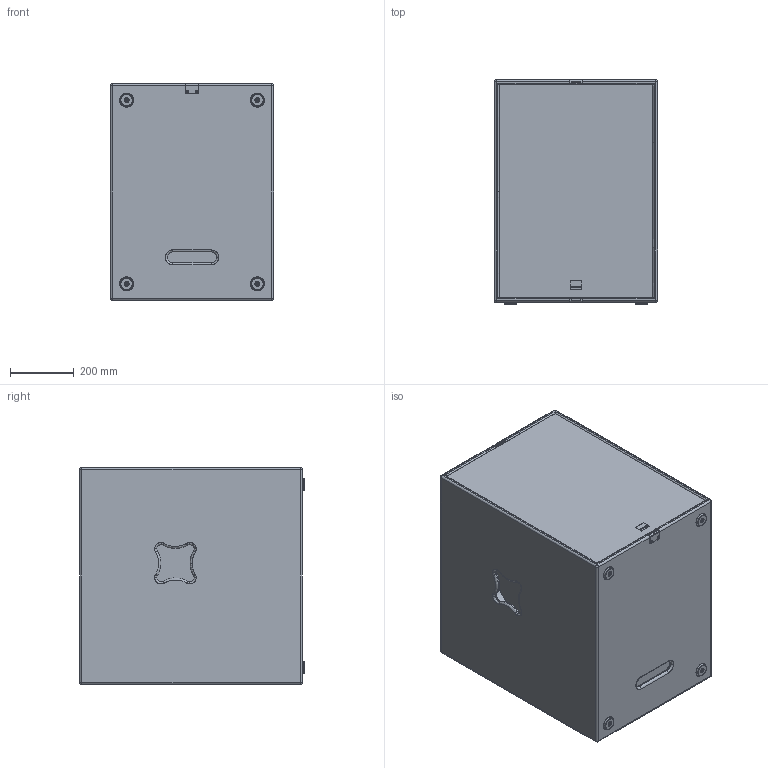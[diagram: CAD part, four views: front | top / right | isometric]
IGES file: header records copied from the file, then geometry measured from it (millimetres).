
Start section: SolidWorks IGES file using analytic representation for surfaces
Global section: file name: C:\Dokumente und Einstellungen\PC_Fabian\Desktop\TS-Serie\Seeburg_TSE-Sub-GV.IGS; native system: SolidWorks 2009; preprocessor: SolidWorks 2009; author: PC_Fabian; date: 121017.132240; units: millimetre
Bounding box: 512 x 704 x 680 mm (x, y, z)
Surface area: 4953473.8 mm2 (no closed solid volume)
Topology: 0 solids, 0 shells, 691 faces, 9458 edges, 9454 vertices
Faces by surface type: bspline 365, revolution 326
